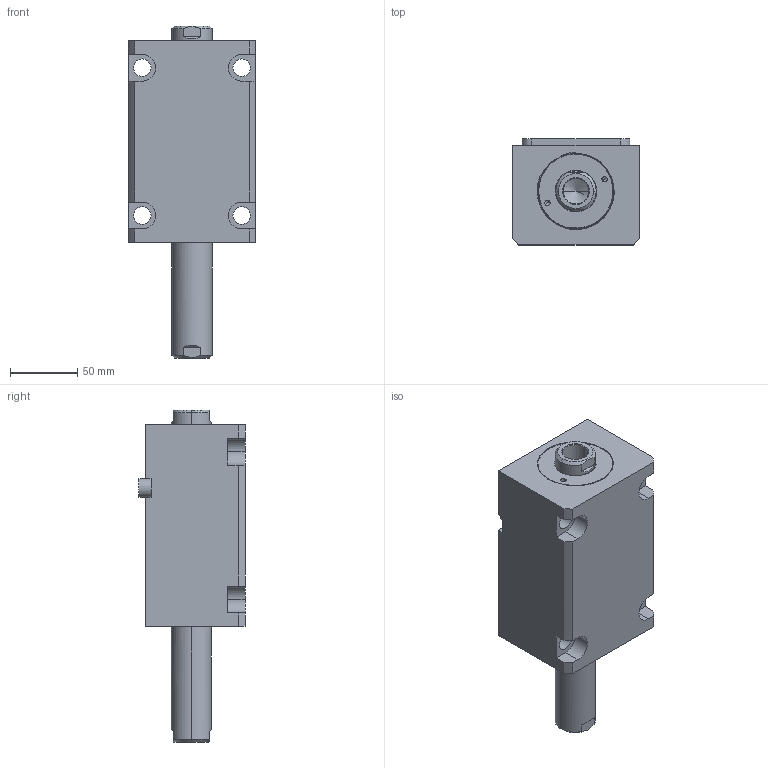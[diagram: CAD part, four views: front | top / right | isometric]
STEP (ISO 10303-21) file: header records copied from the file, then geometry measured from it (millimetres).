
FILE_DESCRIPTION (( 'STEP AP203' ), '1' );
FILE_NAME ('CHTB-LWM50-75N.STEP', '2018-05-22T07:09:12', ( '' ), ( '' ), 'SwSTEP 2.0', 'SolidWorks 2015', '' );
FILE_SCHEMA (( 'CONFIG_CONTROL_DESIGN' ));
Length unit declared in the file: millimetre
Products named in the file (4): 掛极LWM50-75N; CHTM-SDMA50QG; CHTB-LWM50-75N; 活塞杆LWM50-75N
Assembly tree (3 placements, depth 2):
  CHTB-LWM50-75N
    掛极LWM50-75N
    活塞杆LWM50-75N
    CHTM-SDMA50QG
Bounding box: 94 x 79 x 247 mm (x, y, z)
Volume: 945539.4 mm3; surface area: 144575.9 mm2
Topology: 3 solids, 3 shells, 213 faces, 571 edges, 374 vertices
Faces by surface type: cylinder 104, plane 57, cone 22, torus 16, bspline 14
Entity records: 11569 total; most frequent: CARTESIAN_POINT 6050, ORIENTED_EDGE 1126, DIRECTION 1011, EDGE_CURVE 563, AXIS2_PLACEMENT_3D 396, VERTEX_POINT 374, EDGE_LOOP 247, VECTOR 219
